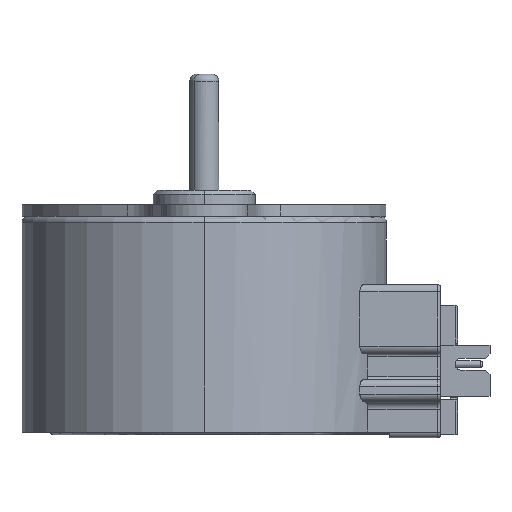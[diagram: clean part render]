
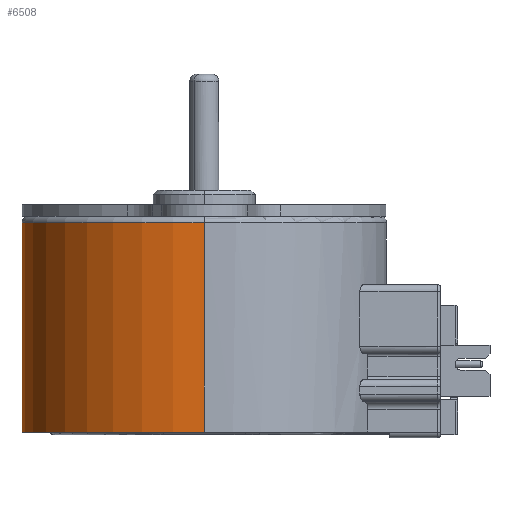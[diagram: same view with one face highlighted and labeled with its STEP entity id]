
A CAD part, left-side view. The second image highlights one B-rep face of the part: STEP entity #6508.
In plain terms, the highlighted cylindrical face has radius 12.5 mm (diameter 25 mm), a partial arc.
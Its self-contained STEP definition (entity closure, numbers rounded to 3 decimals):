
#1100 = DIRECTION ( 'NONE',  ( 0., 0., 1. ) ) ;
#1633 = ORIENTED_EDGE ( 'NONE', *, *, #2912, .F. ) ;
#1863 = CARTESIAN_POINT ( 'NONE',  ( 0., 0., -8.15 ) ) ;
#2071 = VERTEX_POINT ( 'NONE', #6601 ) ;
#2081 = DIRECTION ( 'NONE',  ( 1., 0., 0. ) ) ;
#2107 = CIRCLE ( 'NONE', #7588, 12.5 ) ;
#2151 = VECTOR ( 'NONE', #1100, 1000. ) ;
#2192 = EDGE_LOOP ( 'NONE', ( #2427, #7180, #8040, #1633 ) ) ;
#2283 = CARTESIAN_POINT ( 'NONE',  ( 0., 0., -8.15 ) ) ;
#2427 = ORIENTED_EDGE ( 'NONE', *, *, #3972, .F. ) ;
#2912 = EDGE_CURVE ( 'NONE', #4562, #2071, #4001, .T. ) ;
#3144 = DIRECTION ( 'NONE',  ( 0., 0., -1. ) ) ;
#3184 = CARTESIAN_POINT ( 'NONE',  ( 0., 0., 6.2 ) ) ;
#3539 = VERTEX_POINT ( 'NONE', #4408 ) ;
#3658 = LINE ( 'NONE', #3698, #2151 ) ;
#3698 = CARTESIAN_POINT ( 'NONE',  ( -12.5, 0., -8.15 ) ) ;
#3972 = EDGE_CURVE ( 'NONE', #8316, #4562, #2107, .T. ) ;
#4001 = LINE ( 'NONE', #7904, #8446 ) ;
#4357 = CIRCLE ( 'NONE', #5717, 12.5 ) ;
#4408 = CARTESIAN_POINT ( 'NONE',  ( -12.5, 0., 6.2 ) ) ;
#4562 = VERTEX_POINT ( 'NONE', #5237 ) ;
#4679 = DIRECTION ( 'NONE',  ( 0., 0., 1. ) ) ;
#5237 = CARTESIAN_POINT ( 'NONE',  ( 12.5, 0., -8.15 ) ) ;
#5416 = EDGE_CURVE ( 'NONE', #3539, #2071, #4357, .T. ) ;
#5717 = AXIS2_PLACEMENT_3D ( 'NONE', #3184, #3144, #6909 ) ;
#5721 = DIRECTION ( 'NONE',  ( -1., 0., 0. ) ) ;
#5783 = EDGE_CURVE ( 'NONE', #8316, #3539, #3658, .T. ) ;
#6356 = CARTESIAN_POINT ( 'NONE',  ( -12.5, 0., -8.15 ) ) ;
#6508 = ADVANCED_FACE ( 'NONE', ( #6668 ), #8006, .T. ) ;
#6536 = DIRECTION ( 'NONE',  ( 0., 0., -1. ) ) ;
#6601 = CARTESIAN_POINT ( 'NONE',  ( 12.5, 0., 6.2 ) ) ;
#6668 = FACE_OUTER_BOUND ( 'NONE', #2192, .T. ) ;
#6909 = DIRECTION ( 'NONE',  ( -1., 0., 0. ) ) ;
#7180 = ORIENTED_EDGE ( 'NONE', *, *, #5783, .T. ) ;
#7588 = AXIS2_PLACEMENT_3D ( 'NONE', #1863, #6536, #5721 ) ;
#7904 = CARTESIAN_POINT ( 'NONE',  ( 12.5, 0., -8.15 ) ) ;
#8006 = CYLINDRICAL_SURFACE ( 'NONE', #8198, 12.5 ) ;
#8040 = ORIENTED_EDGE ( 'NONE', *, *, #5416, .T. ) ;
#8198 = AXIS2_PLACEMENT_3D ( 'NONE', #2283, #8216, #2081 ) ;
#8216 = DIRECTION ( 'NONE',  ( 0., 0., 1. ) ) ;
#8316 = VERTEX_POINT ( 'NONE', #6356 ) ;
#8446 = VECTOR ( 'NONE', #4679, 1000. ) ;
